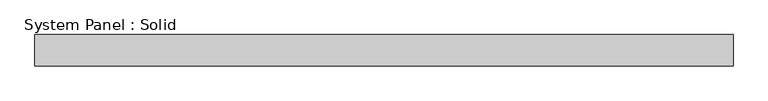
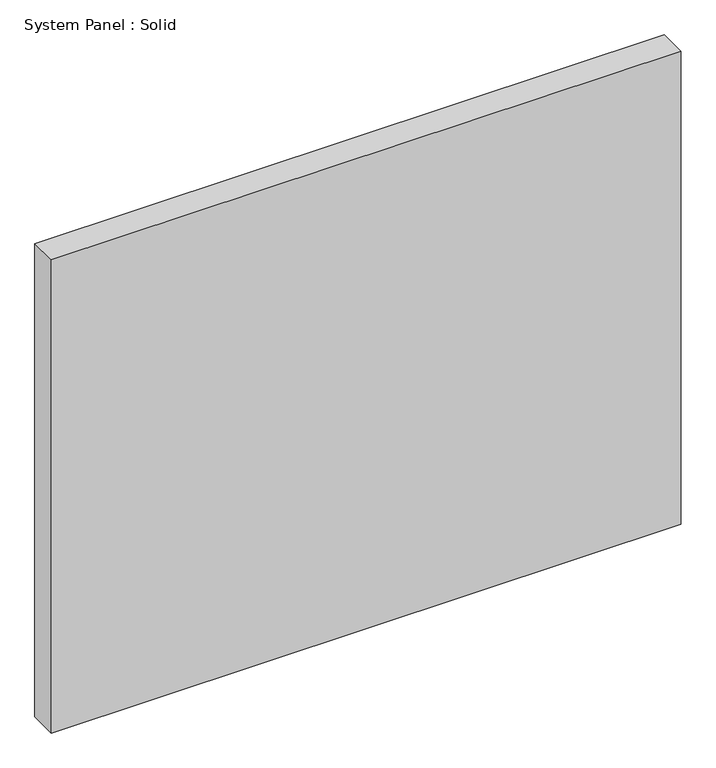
"""IFC4 building model written with IfcOpenShell, lengths in millimetres: plate geometry, System Panel : Solid."""

from ifc_helpers import new_model, si_unit, origin, origin_with_axes, place, context, project, spatial, polyline, outline, extrude, source, transform, mapped, element, save


def system_panel_solid_dc1d4dd7(model_context):
    return source(origin(), model_context, "Body", "SweptSolid", [
        extrude(outline(polyline([(707.3194444, -19.05), (-707.3194444, -19.05), (-707.3194444, 44.45), (707.3194444, 44.45), (707.3194444, -19.05)])), origin_with_axes(), (0.0, 0.0, 1.0), 1123.95),
    ])


if __name__ == "__main__":
    model = new_model("IFC4")
    model_context = context("Model", 3, world=origin())
    ifc_project = project(units=[si_unit("LENGTHUNIT", "METRE", prefix="MILLI")], contexts=[model_context])
    site = spatial("IfcSite", under=ifc_project)
    building = spatial("IfcBuilding", under=site)
    placement = place(None, origin())
    system_panel_solid_shape = system_panel_solid_dc1d4dd7(model_context)
    element("IfcPlate", 1, ObjectType="System Panel : Solid", at=placement, inside=building, context=model_context, shape_type="MappedRepresentation", body=[
        mapped(system_panel_solid_shape, transform((0.0, 0.0, 0.0), x_axis=(1.0, 0.0, 0.0), y_axis=(0.0, 1.0, 0.0), z_axis=(0.0, 0.0, 1.0))),
    ])
    save(model, "model.ifc")
